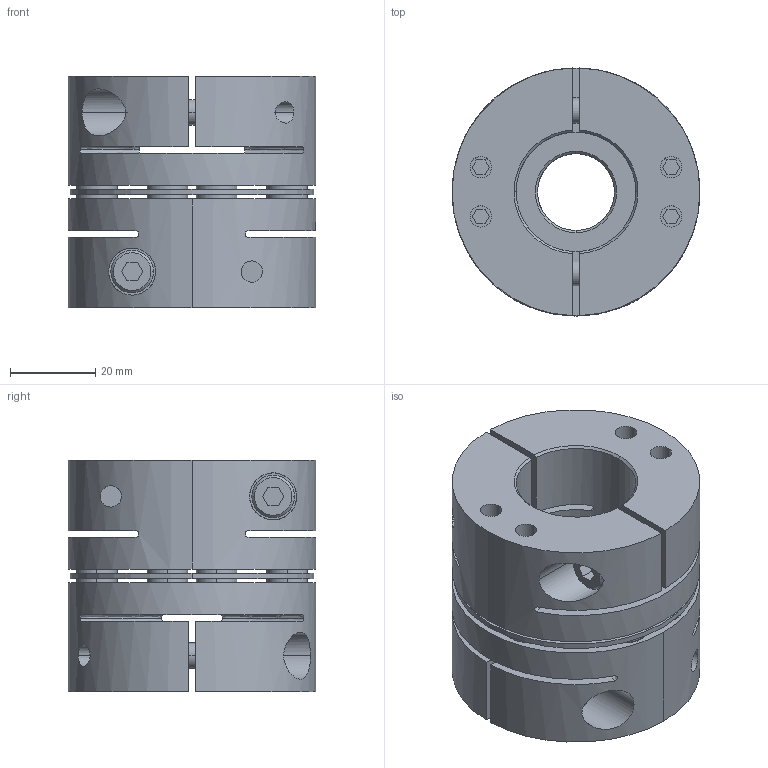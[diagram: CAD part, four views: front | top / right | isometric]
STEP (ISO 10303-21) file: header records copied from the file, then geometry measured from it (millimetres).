
FILE_DESCRIPTION((''),'2;1');
FILE_NAME('TAS-58C-18×28.stp','2022-11-14T22:19:04',(''),(''),'AutoCAD STEP 2000i','AutoCAD 2000i',', , ');
FILE_SCHEMA(('CONFIG_CONTROL_DESIGN'));
Length unit declared in the file: millimetre
Products named in the file (6): TAS-58C-12×22; 忣兜1; TA58C-22; CAP-M6×20; TA58C-12-2; TA58C-12
Assembly tree (7 placements, depth 3):
  TAS-58C-12×22
    忣兜1
    TA58C-22
      CAP-M6×20
    TA58C-12-2
      CAP-M6×20
    TA58C-12
      CAP-M6×20
Bounding box: 58 x 58 x 54.25 mm (x, y, z)
Volume: 100124.7 mm3; surface area: 41217.6 mm2
Topology: 1 solids, 1 shells, 360 faces, 898 edges, 628 vertices
Faces by surface type: plane 160, cylinder 148, cone 36, bspline 16
Entity records: 12805 total; most frequent: CARTESIAN_POINT 3832, DIRECTION 1922, ORIENTED_EDGE 1720, EDGE_CURVE 860, AXIS2_PLACEMENT_3D 732, VERTEX_POINT 564, EDGE_LOOP 464, VECTOR 458
